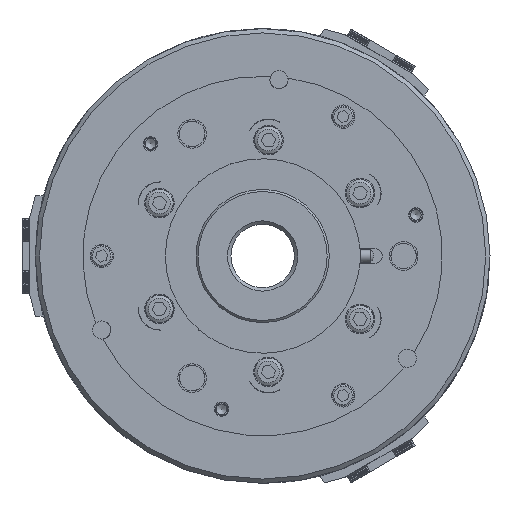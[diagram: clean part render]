
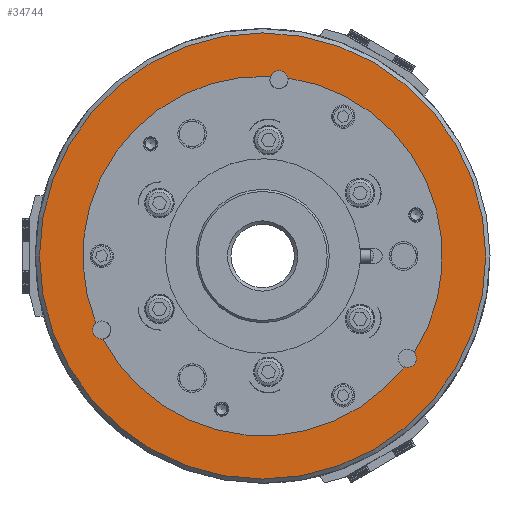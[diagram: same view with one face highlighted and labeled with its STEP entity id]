
A CAD part, left-side view. The second image highlights one B-rep face of the part: STEP entity #34744.
In plain terms, the highlighted planar face has unit normal (-1, 0, 0).
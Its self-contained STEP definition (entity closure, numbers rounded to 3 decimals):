
#939 = CARTESIAN_POINT ( 'NONE',  ( -100., 52.75, -91.366 ) ) ;
#3153 = ORIENTED_EDGE ( 'NONE', *, *, #21032, .T. ) ;
#3334 = DIRECTION ( 'NONE',  ( 0., 0., 1. ) ) ;
#4445 = DIRECTION ( 'NONE',  ( 1., 0., 0. ) ) ;
#6279 = CARTESIAN_POINT ( 'NONE',  ( -100., 78.865, -31.707 ) ) ;
#9260 = CIRCLE ( 'NONE', #12168, 4.3 ) ;
#9569 = EDGE_CURVE ( 'NONE', #55636, #37571, #24285, .T. ) ;
#12168 = AXIS2_PLACEMENT_3D ( 'NONE', #48617, #53136, #36236 ) ;
#12289 = DIRECTION ( 'NONE',  ( 0., 0., -1. ) ) ;
#13237 = ORIENTED_EDGE ( 'NONE', *, *, #46020, .F. ) ;
#15689 = EDGE_CURVE ( 'NONE', #40051, #57395, #50220, .T. ) ;
#16864 = VERTEX_POINT ( 'NONE', #48068 ) ;
#17397 = DIRECTION ( 'NONE',  ( -1., 0., 0. ) ) ;
#18324 = CARTESIAN_POINT ( 'NONE',  ( -100., 0., 0. ) ) ;
#21032 = EDGE_CURVE ( 'NONE', #60047, #16864, #28326, .T. ) ;
#21717 = CARTESIAN_POINT ( 'NONE',  ( -100., 76.1, -35. ) ) ;
#23677 = CIRCLE ( 'NONE', #43872, 105.5 ) ;
#24130 = AXIS2_PLACEMENT_3D ( 'NONE', #72050, #37967, #3334 ) ;
#24285 = CIRCLE ( 'NONE', #66851, 85. ) ;
#24343 = DIRECTION ( 'NONE',  ( 0., 0., -1. ) ) ;
#24709 = CARTESIAN_POINT ( 'NONE',  ( -100., -11.974, 84.152 ) ) ;
#25074 = CARTESIAN_POINT ( 'NONE',  ( -100., 75.399, -39.242 ) ) ;
#25690 = ORIENTED_EDGE ( 'NONE', *, *, #9569, .T. ) ;
#27457 = ORIENTED_EDGE ( 'NONE', *, *, #27539, .F. ) ;
#27539 = EDGE_CURVE ( 'NONE', #40051, #16864, #9260, .T. ) ;
#28326 = CIRCLE ( 'NONE', #29505, 85. ) ;
#29496 = DIRECTION ( 'NONE',  ( 1., 0., 0. ) ) ;
#29505 = AXIS2_PLACEMENT_3D ( 'NONE', #64142, #29496, #12289 ) ;
#30378 = CIRCLE ( 'NONE', #52423, 4.3 ) ;
#31961 = FACE_OUTER_BOUND ( 'NONE', #69404, .T. ) ;
#34744 = ADVANCED_FACE ( 'NONE', ( #47355, #31961 ), #41156, .T. ) ;
#35328 = DIRECTION ( 'NONE',  ( 0., 0., 1. ) ) ;
#36236 = DIRECTION ( 'NONE',  ( 0., 0., 1. ) ) ;
#36490 = ORIENTED_EDGE ( 'NONE', *, *, #15689, .T. ) ;
#37390 = ORIENTED_EDGE ( 'NONE', *, *, #52872, .F. ) ;
#37571 = VERTEX_POINT ( 'NONE', #25074 ) ;
#37967 = DIRECTION ( 'NONE',  ( -1., 0., 0. ) ) ;
#38566 = CARTESIAN_POINT ( 'NONE',  ( -100., 0., 0. ) ) ;
#40051 = VERTEX_POINT ( 'NONE', #24709 ) ;
#41087 = DIRECTION ( 'NONE',  ( 1., 0., 0. ) ) ;
#41156 = PLANE ( 'NONE',  #61066 ) ;
#43872 = AXIS2_PLACEMENT_3D ( 'NONE', #38566, #4445, #44861 ) ;
#44861 = DIRECTION ( 'NONE',  ( 0., 0., -1. ) ) ;
#45204 = DIRECTION ( 'NONE',  ( -1., 0., 0. ) ) ;
#46020 = EDGE_CURVE ( 'NONE', #60047, #37571, #30378, .T. ) ;
#47355 = FACE_BOUND ( 'NONE', #54163, .T. ) ;
#48068 = CARTESIAN_POINT ( 'NONE',  ( -100., -3.715, 84.919 ) ) ;
#48617 = CARTESIAN_POINT ( 'NONE',  ( -100., -7.739, 83.405 ) ) ;
#49149 = CARTESIAN_POINT ( 'NONE',  ( -100., -66.891, -52.446 ) ) ;
#49280 = AXIS2_PLACEMENT_3D ( 'NONE', #57465, #68806, #57711 ) ;
#50220 = CIRCLE ( 'NONE', #49280, 85. ) ;
#51366 = CIRCLE ( 'NONE', #24130, 4.3 ) ;
#52423 = AXIS2_PLACEMENT_3D ( 'NONE', #21717, #45204, #62161 ) ;
#52872 = EDGE_CURVE ( 'NONE', #70911, #70911, #23677, .T. ) ;
#53136 = DIRECTION ( 'NONE',  ( -1., 0., 0. ) ) ;
#53986 = ORIENTED_EDGE ( 'NONE', *, *, #73208, .F. ) ;
#54163 = EDGE_LOOP ( 'NONE', ( #27457, #36490, #53986, #25690, #13237, #3153 ) ) ;
#55636 = VERTEX_POINT ( 'NONE', #49149 ) ;
#57395 = VERTEX_POINT ( 'NONE', #68570 ) ;
#57465 = CARTESIAN_POINT ( 'NONE',  ( -100., 0., 0. ) ) ;
#57711 = DIRECTION ( 'NONE',  ( 0., 0., -1. ) ) ;
#60047 = VERTEX_POINT ( 'NONE', #6279 ) ;
#61066 = AXIS2_PLACEMENT_3D ( 'NONE', #939, #17397, #35328 ) ;
#62161 = DIRECTION ( 'NONE',  ( 0., 0., 1. ) ) ;
#64142 = CARTESIAN_POINT ( 'NONE',  ( -100., 0., 0. ) ) ;
#66444 = CARTESIAN_POINT ( 'NONE',  ( -100., 0., -105.5 ) ) ;
#66851 = AXIS2_PLACEMENT_3D ( 'NONE', #18324, #41087, #24343 ) ;
#68570 = CARTESIAN_POINT ( 'NONE',  ( -100., -71.685, -45.676 ) ) ;
#68806 = DIRECTION ( 'NONE',  ( 1., 0., 0. ) ) ;
#69404 = EDGE_LOOP ( 'NONE', ( #37390 ) ) ;
#70911 = VERTEX_POINT ( 'NONE', #66444 ) ;
#72050 = CARTESIAN_POINT ( 'NONE',  ( -100., -68.361, -48.405 ) ) ;
#73208 = EDGE_CURVE ( 'NONE', #55636, #57395, #51366, .T. ) ;
